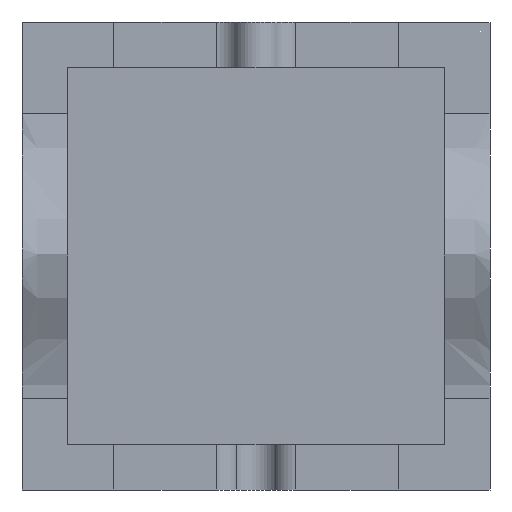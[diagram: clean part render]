
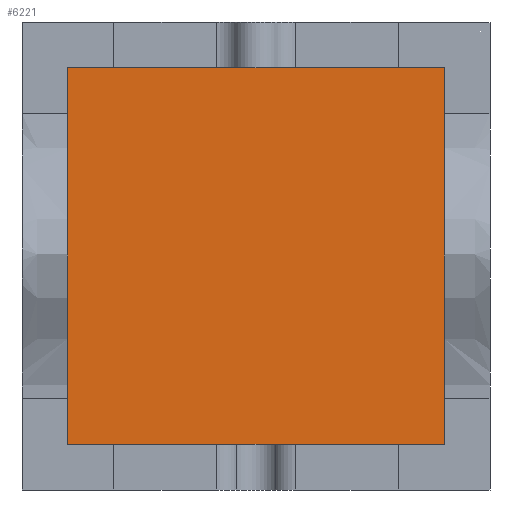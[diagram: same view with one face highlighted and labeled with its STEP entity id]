
A CAD part, front view. The second image highlights one B-rep face of the part: STEP entity #6221.
In plain terms, the highlighted planar face has unit normal (0, -1, 0).
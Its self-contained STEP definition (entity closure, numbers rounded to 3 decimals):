
#6095=CARTESIAN_POINT('Vertex',(-20.,-30.,-20.)) ;
#6100=CARTESIAN_POINT('Line Origine',(-20.,-30.,62.)) ;
#6104=CARTESIAN_POINT('Vertex',(-20.,-30.,144.)) ;
#6131=CARTESIAN_POINT('Line Origine',(62.,-30.,144.)) ;
#6135=CARTESIAN_POINT('Vertex',(144.,-30.,144.)) ;
#6162=CARTESIAN_POINT('Line Origine',(144.,-30.,62.)) ;
#6166=CARTESIAN_POINT('Vertex',(144.,-30.,-20.)) ;
#6193=CARTESIAN_POINT('Line Origine',(62.,-30.,-20.)) ;
#6210=CARTESIAN_POINT('Axis2P3D Location',(0.,-30.,0.)) ;
#6101=DIRECTION('Vector Direction',(0.,0.,-1.)) ;
#6132=DIRECTION('Vector Direction',(1.,0.,0.)) ;
#6163=DIRECTION('Vector Direction',(0.,0.,1.)) ;
#6194=DIRECTION('Vector Direction',(-1.,0.,0.)) ;
#6211=DIRECTION('Axis2P3D Direction',(0.,1.,0.)) ;
#6212=DIRECTION('Axis2P3D XDirection',(-1.,0.,0.)) ;
#6213=AXIS2_PLACEMENT_3D('Plane Axis2P3D',#6210,#6211,#6212) ;
#6216=ORIENTED_EDGE('',*,*,#6197,.F.) ;
#6217=ORIENTED_EDGE('',*,*,#6168,.F.) ;
#6218=ORIENTED_EDGE('',*,*,#6137,.F.) ;
#6219=ORIENTED_EDGE('',*,*,#6106,.F.) ;
#6102=VECTOR('Line Direction',#6101,1.) ;
#6133=VECTOR('Line Direction',#6132,1.) ;
#6164=VECTOR('Line Direction',#6163,1.) ;
#6195=VECTOR('Line Direction',#6194,1.) ;
#6221=ADVANCED_FACE('Cavity-molde',(#6220),#6214,.F.) ;
#6106=EDGE_CURVE('',#6096,#6105,#6103,.F.) ;
#6137=EDGE_CURVE('',#6105,#6136,#6134,.T.) ;
#6168=EDGE_CURVE('',#6136,#6167,#6165,.F.) ;
#6197=EDGE_CURVE('',#6167,#6096,#6196,.T.) ;
#6215=EDGE_LOOP('',(#6216,#6217,#6218,#6219)) ;
#6220=FACE_OUTER_BOUND('',#6215,.T.) ;
#6103=LINE('Line',#6100,#6102) ;
#6134=LINE('Line',#6131,#6133) ;
#6165=LINE('Line',#6162,#6164) ;
#6196=LINE('Line',#6193,#6195) ;
#6214=PLANE('',#6213) ;
#6096=VERTEX_POINT('',#6095) ;
#6105=VERTEX_POINT('',#6104) ;
#6136=VERTEX_POINT('',#6135) ;
#6167=VERTEX_POINT('',#6166) ;
